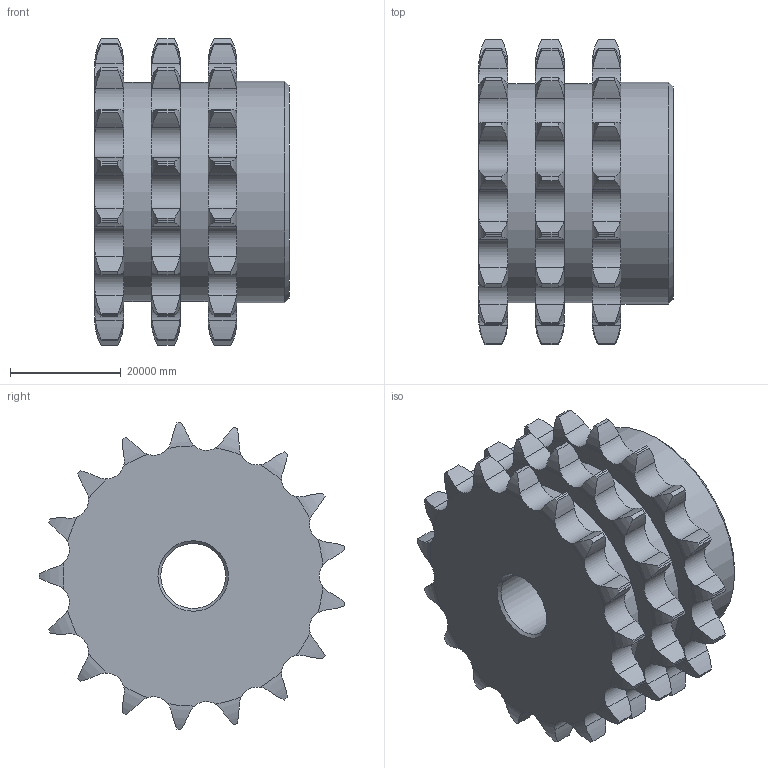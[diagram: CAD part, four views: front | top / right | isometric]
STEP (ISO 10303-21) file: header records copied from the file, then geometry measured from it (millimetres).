
FILE_DESCRIPTION(/* description */ (''),/* implementation_level */ '2;1');
FILE_NAME(/* name */ 'C:\Users\stagistaCAD\Desktop\10309017.stp',/* time_stamp */ '2018-06-12T10:42:58+02:00',/* author */ ('stagistacad'),/* organization */ (''),/* preprocessor_version */ 'ST-DEVELOPER v15.6',/* originating_system */ 'Autodesk Inventor 2015',/* authorisation */ '');
FILE_SCHEMA (('AUTOMOTIVE_DESIGN { 1 0 10303 214 3 1 1 }'));
Length unit declared in the file: millimetre
Products named in the file (1): 10309017
Bounding box: 35000 x 55069.66 x 55316.09 mm (x, y, z)
Volume: 49432598837062 mm3; surface area: 13319135742.1 mm2
Topology: 1 solids, 1 shells, 338 faces, 990 edges, 659 vertices
Faces by surface type: cylinder 226, torus 102, plane 7, cone 3
Full cylindrical faces by diameter (mm): 11700 x1, 39490 x2, 40000 x1
Entity records: 14298 total; most frequent: CARTESIAN_POINT 6031, ORIENTED_EDGE 1966, DIRECTION 1438, EDGE_CURVE 983, VERTEX_POINT 659, AXIS2_PLACEMENT_3D 608, B_SPLINE_CURVE_WITH_KNOTS 492, EDGE_LOOP 352
